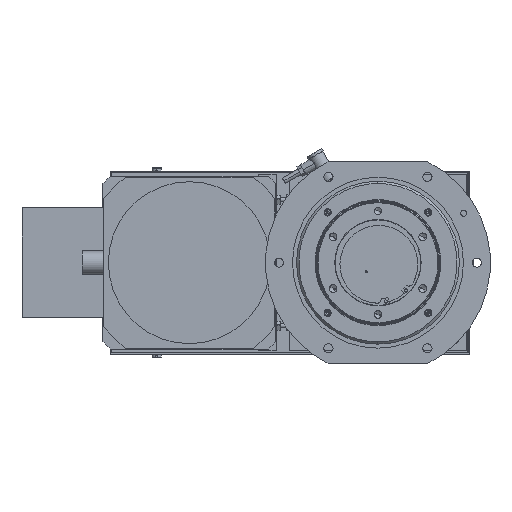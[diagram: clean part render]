
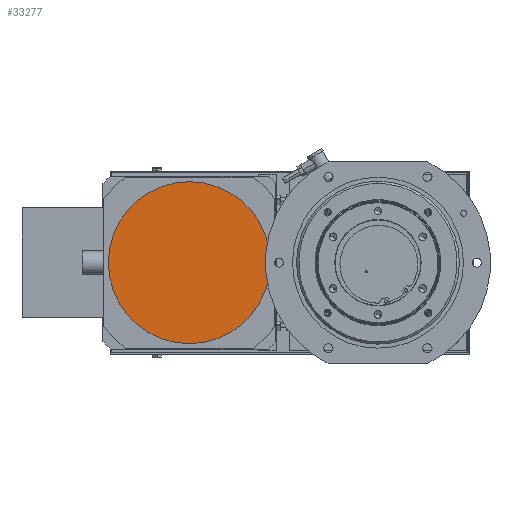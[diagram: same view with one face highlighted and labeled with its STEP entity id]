
A CAD part, front view. The second image highlights one B-rep face of the part: STEP entity #33277.
In plain terms, the highlighted planar face has unit normal (0, -1, 0).
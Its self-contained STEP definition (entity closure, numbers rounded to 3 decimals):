
#5726 = AXIS2_PLACEMENT_3D ( 'NONE', #50030, #11581, #56502 ) ;
#11581 = DIRECTION ( 'NONE',  ( 0., -1., 0. ) ) ;
#11825 = DIRECTION ( 'NONE',  ( 0., -1., 0. ) ) ;
#12562 = AXIS2_PLACEMENT_3D ( 'NONE', #50268, #11825, #56737 ) ;
#18954 = EDGE_CURVE ( 'NONE', #75320, #40616, #21505, .T. ) ;
#19172 = DIRECTION ( 'NONE',  ( 1., 0., 0. ) ) ;
#21505 = CIRCLE ( 'NONE', #5726, 90. ) ;
#24536 = ORIENTED_EDGE ( 'NONE', *, *, #18954, .T. ) ;
#28632 = AXIS2_PLACEMENT_3D ( 'NONE', #38239, #57617, #19172 ) ;
#33277 = ADVANCED_FACE ( 'NONE', ( #38205 ), #76695, .F. ) ;
#33627 = EDGE_CURVE ( 'NONE', #40616, #75320, #76302, .T. ) ;
#38205 = FACE_OUTER_BOUND ( 'NONE', #78744, .T. ) ;
#38239 = CARTESIAN_POINT ( 'NONE',  ( -59.411, -16.471, 229.409 ) ) ;
#40616 = VERTEX_POINT ( 'NONE', #73053 ) ;
#50030 = CARTESIAN_POINT ( 'NONE',  ( -154.411, -16.471, 134.409 ) ) ;
#50268 = CARTESIAN_POINT ( 'NONE',  ( -154.411, -16.471, 134.409 ) ) ;
#50675 = CARTESIAN_POINT ( 'NONE',  ( -64.411, -16.471, 134.409 ) ) ;
#56502 = DIRECTION ( 'NONE',  ( -1., 0., 0. ) ) ;
#56737 = DIRECTION ( 'NONE',  ( -1., 0., 0. ) ) ;
#57617 = DIRECTION ( 'NONE',  ( 0., 1., 0. ) ) ;
#60144 = ORIENTED_EDGE ( 'NONE', *, *, #33627, .T. ) ;
#73053 = CARTESIAN_POINT ( 'NONE',  ( -244.411, -16.471, 134.409 ) ) ;
#75320 = VERTEX_POINT ( 'NONE', #50675 ) ;
#76302 = CIRCLE ( 'NONE', #12562, 90. ) ;
#76695 = PLANE ( 'NONE',  #28632 ) ;
#78744 = EDGE_LOOP ( 'NONE', ( #60144, #24536 ) ) ;
